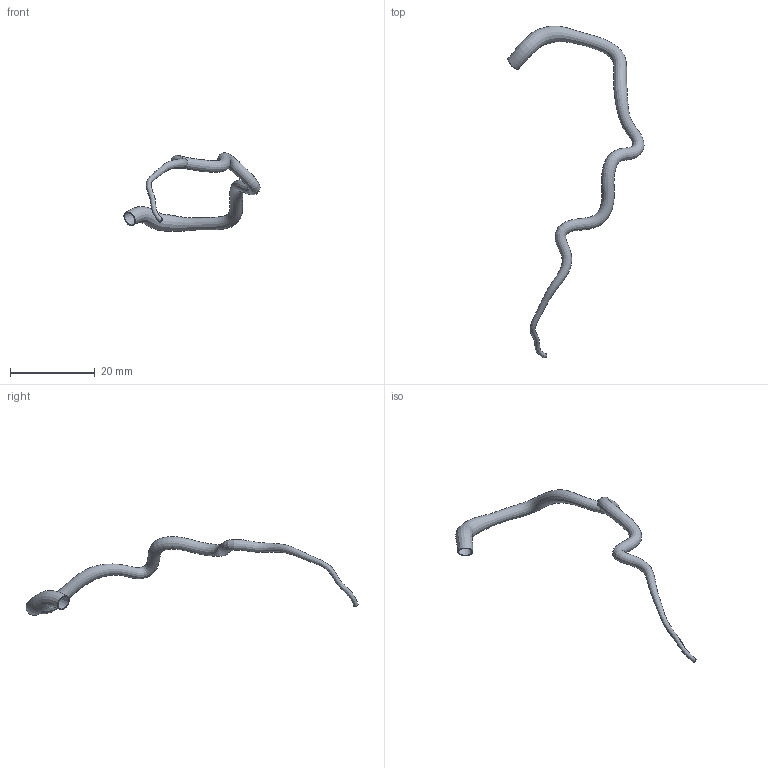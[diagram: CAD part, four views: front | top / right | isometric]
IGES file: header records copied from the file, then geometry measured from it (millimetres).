
Global section: file name: C:\Documents and Settings\Administrator\Desktop\FDA-Pig\Domestic RCA\Pig_000010\rca.seg.ed.igs; native system: Rhinoceros ( May 19 2006 ); preprocessor: Trout Lake IGES 012 May 19 2006; date: 111205.185520; units: centimetre
Bounding box: 32.15 x 78.4 x 18.56 mm (x, y, z)
Surface area: 1994.5 mm2 (no closed solid volume)
Topology: 0 solids, 0 shells, 4 faces, 13 edges, 10 vertices
Faces by surface type: bspline 4
